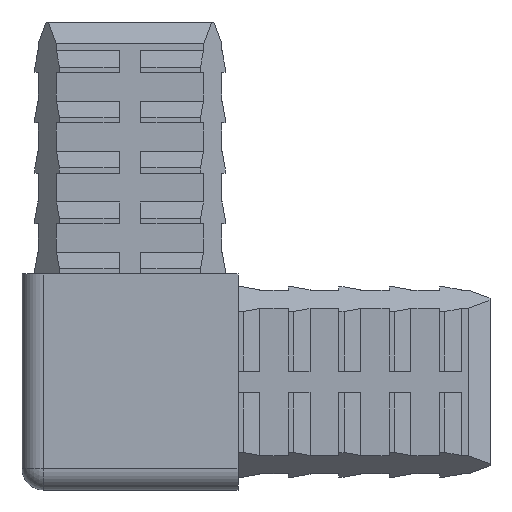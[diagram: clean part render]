
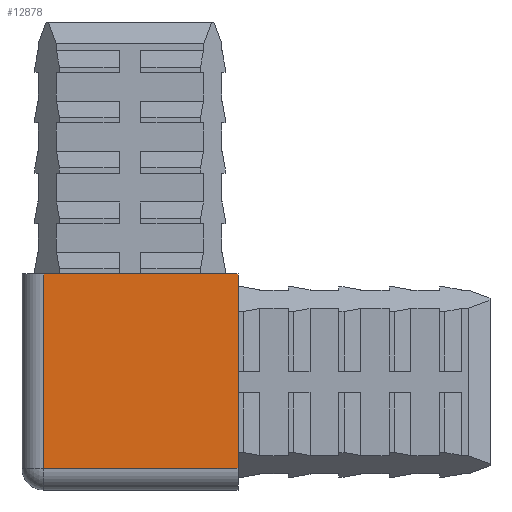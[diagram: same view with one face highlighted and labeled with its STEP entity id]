
A CAD part, left-side view. The second image highlights one B-rep face of the part: STEP entity #12878.
In plain terms, the highlighted planar face has unit normal (-1, 0, 0).
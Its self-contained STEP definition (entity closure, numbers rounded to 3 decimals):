
#661 = DIRECTION ( 'NONE',  ( 0., -1., 0. ) ) ;
#914 = EDGE_CURVE ( 'NONE', #1591, #3054, #12427, .T. ) ;
#1133 = VECTOR ( 'NONE', #4731, 1000. ) ;
#1134 = EDGE_CURVE ( 'NONE', #10956, #13081, #8715, .T. ) ;
#1243 = EDGE_LOOP ( 'NONE', ( #15954, #11863, #12196, #11949 ) ) ;
#1317 = DIRECTION ( 'NONE',  ( 0., 1., 0. ) ) ;
#1475 = CARTESIAN_POINT ( 'NONE',  ( -15., 12., 50. ) ) ;
#1591 = VERTEX_POINT ( 'NONE', #16895 ) ;
#1938 = EDGE_CURVE ( 'NONE', #10956, #1591, #9990, .T. ) ;
#1964 = VECTOR ( 'NONE', #2888, 1000. ) ;
#2338 = CARTESIAN_POINT ( 'NONE',  ( -15., 15., -12. ) ) ;
#2362 = CARTESIAN_POINT ( 'NONE',  ( -15., -15., -12. ) ) ;
#2888 = DIRECTION ( 'NONE',  ( 0., 0., -1. ) ) ;
#3054 = VERTEX_POINT ( 'NONE', #10081 ) ;
#3237 = VECTOR ( 'NONE', #661, 1000. ) ;
#3578 = CARTESIAN_POINT ( 'NONE',  ( -15., -15., 15. ) ) ;
#4731 = DIRECTION ( 'NONE',  ( 0., 0., -1. ) ) ;
#8036 = CARTESIAN_POINT ( 'NONE',  ( -15., 15., 50. ) ) ;
#8709 = LINE ( 'NONE', #2338, #3237 ) ;
#8715 = LINE ( 'NONE', #11439, #1133 ) ;
#9349 = FACE_OUTER_BOUND ( 'NONE', #1243, .T. ) ;
#9610 = PLANE ( 'NONE',  #16853 ) ;
#9990 = LINE ( 'NONE', #11394, #16664 ) ;
#10081 = CARTESIAN_POINT ( 'NONE',  ( -15., 12., -12. ) ) ;
#10956 = VERTEX_POINT ( 'NONE', #3578 ) ;
#11394 = CARTESIAN_POINT ( 'NONE',  ( -15., -50., 15. ) ) ;
#11439 = CARTESIAN_POINT ( 'NONE',  ( -15., -15., 15. ) ) ;
#11863 = ORIENTED_EDGE ( 'NONE', *, *, #13499, .T. ) ;
#11949 = ORIENTED_EDGE ( 'NONE', *, *, #1938, .T. ) ;
#12196 = ORIENTED_EDGE ( 'NONE', *, *, #1134, .F. ) ;
#12427 = LINE ( 'NONE', #1475, #1964 ) ;
#12878 = ADVANCED_FACE ( 'NONE', ( #9349 ), #9610, .F. ) ;
#13081 = VERTEX_POINT ( 'NONE', #2362 ) ;
#13416 = DIRECTION ( 'NONE',  ( 1., 0., 0. ) ) ;
#13499 = EDGE_CURVE ( 'NONE', #3054, #13081, #8709, .T. ) ;
#15539 = DIRECTION ( 'NONE',  ( 0., 1., 0. ) ) ;
#15954 = ORIENTED_EDGE ( 'NONE', *, *, #914, .T. ) ;
#16664 = VECTOR ( 'NONE', #15539, 1000. ) ;
#16853 = AXIS2_PLACEMENT_3D ( 'NONE', #8036, #13416, #1317 ) ;
#16895 = CARTESIAN_POINT ( 'NONE',  ( -15., 12., 15. ) ) ;
